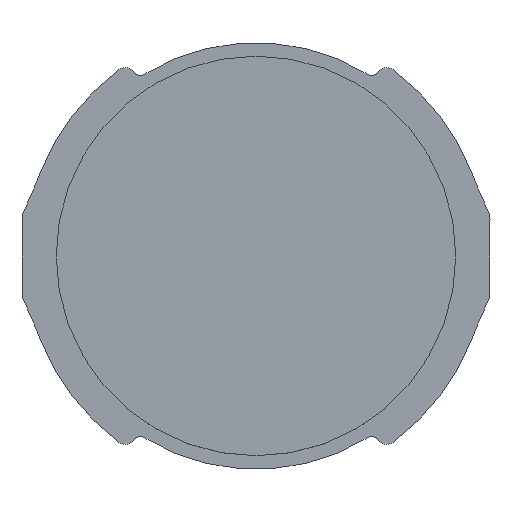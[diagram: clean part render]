
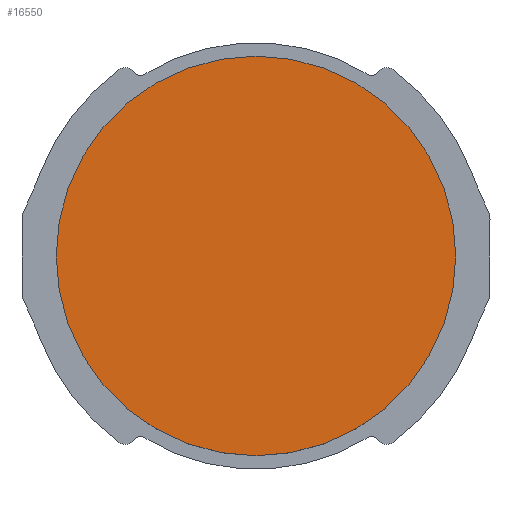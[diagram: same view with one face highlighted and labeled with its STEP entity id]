
A CAD part, top view. The second image highlights one B-rep face of the part: STEP entity #16550.
In plain terms, the highlighted planar face has unit normal (0, 0, 1).
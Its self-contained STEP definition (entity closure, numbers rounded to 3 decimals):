
#5120=CARTESIAN_POINT('',(-8.9,0.,15.));
#5130=VERTEX_POINT('',#5120);
#5160=CARTESIAN_POINT('',(0.,0.,15.));
#5170=DIRECTION('',(0.,0.,1.));
#5180=DIRECTION('',(1.,0.,-0.));
#5190=AXIS2_PLACEMENT_3D('',#5160,#5170,#5180);
#5200=CIRCLE('',#5190,8.9);
#5210=CARTESIAN_POINT('',(8.9,0.,15.));
#5220=VERTEX_POINT('',#5210);
#5230=EDGE_CURVE('',#5130,#5220,#5200,.T.);
#16450=CARTESIAN_POINT('',(0.,0.,15.));
#16460=DIRECTION('',(0.,0.,1.));
#16470=DIRECTION('',(1.,0.,0.));
#16480=AXIS2_PLACEMENT_3D('',#16450,#16460,#16470);
#16490=PLANE('',#16480);
#16500=EDGE_CURVE('',#5220,#5130,#5200,.T.);
#16510=ORIENTED_EDGE('',*,*,#16500,.T.);
#16520=ORIENTED_EDGE('',*,*,#5230,.T.);
#16530=EDGE_LOOP('',(#16520,#16510));
#16540=FACE_OUTER_BOUND('',#16530,.T.);
#16550=ADVANCED_FACE('',(#16540),#16490,.T.);
